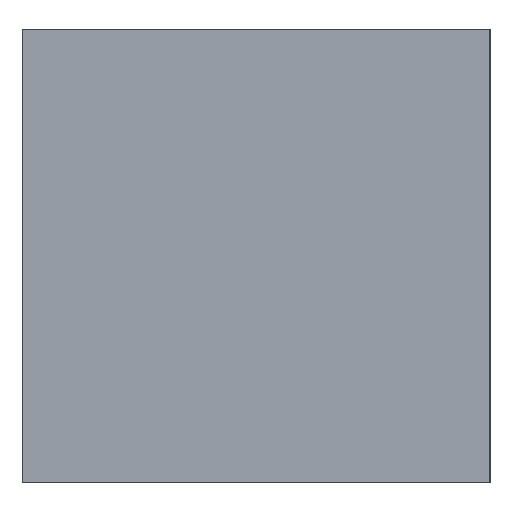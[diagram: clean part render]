
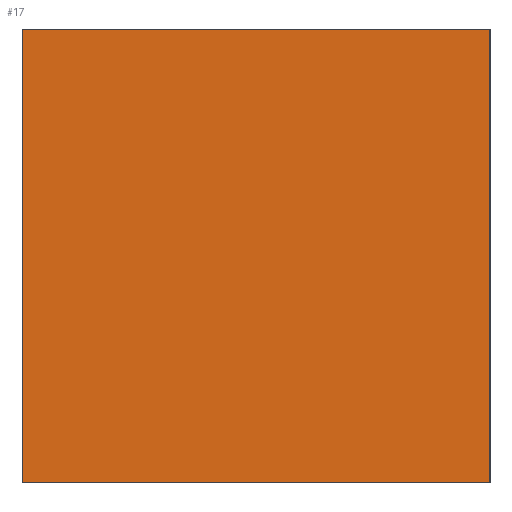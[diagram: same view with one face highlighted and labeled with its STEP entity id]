
A CAD part, left-side view. The second image highlights one B-rep face of the part: STEP entity #17.
In plain terms, the highlighted planar face has unit normal (-1, 0, 0).
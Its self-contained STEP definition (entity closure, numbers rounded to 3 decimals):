
#17 = ADVANCED_FACE('',(#18),#32,.F.);
#18 = FACE_BOUND('',#19,.F.);
#19 = EDGE_LOOP('',(#20,#55,#83,#111));
#20 = ORIENTED_EDGE('',*,*,#21,.F.);
#21 = EDGE_CURVE('',#22,#24,#26,.T.);
#22 = VERTEX_POINT('',#23);
#23 = CARTESIAN_POINT('',(28.53,1.45,-26.662));
#24 = VERTEX_POINT('',#25);
#25 = CARTESIAN_POINT('',(28.53,1.45,-11.338));
#26 = SURFACE_CURVE('',#27,(#31,#43),.PCURVE_S1.);
#27 = LINE('',#28,#29);
#28 = CARTESIAN_POINT('',(28.53,1.45,-26.662));
#29 = VECTOR('',#30,1.);
#30 = DIRECTION('',(0.,0.,1.));
#31 = PCURVE('',#32,#37);
#32 = PLANE('',#33);
#33 = AXIS2_PLACEMENT_3D('',#34,#35,#36);
#34 = CARTESIAN_POINT('',(28.53,1.45,-26.662));
#35 = DIRECTION('',(1.,0.,-0.));
#36 = DIRECTION('',(0.,0.,1.));
#37 = DEFINITIONAL_REPRESENTATION('',(#38),#42);
#38 = LINE('',#39,#40);
#39 = CARTESIAN_POINT('',(0.,0.));
#40 = VECTOR('',#41,1.);
#41 = DIRECTION('',(1.,0.));
#42 = ( GEOMETRIC_REPRESENTATION_CONTEXT(2) 
PARAMETRIC_REPRESENTATION_CONTEXT() REPRESENTATION_CONTEXT('2D SPACE',''
  ) );
#43 = PCURVE('',#44,#49);
#44 = PLANE('',#45);
#45 = AXIS2_PLACEMENT_3D('',#46,#47,#48);
#46 = CARTESIAN_POINT('',(28.53,1.45,-26.662));
#47 = DIRECTION('',(-0.,1.,0.));
#48 = DIRECTION('',(0.,0.,1.));
#49 = DEFINITIONAL_REPRESENTATION('',(#50),#54);
#50 = LINE('',#51,#52);
#51 = CARTESIAN_POINT('',(0.,0.));
#52 = VECTOR('',#53,1.);
#53 = DIRECTION('',(1.,0.));
#54 = ( GEOMETRIC_REPRESENTATION_CONTEXT(2) 
PARAMETRIC_REPRESENTATION_CONTEXT() REPRESENTATION_CONTEXT('2D SPACE',''
  ) );
#55 = ORIENTED_EDGE('',*,*,#56,.T.);
#56 = EDGE_CURVE('',#22,#57,#59,.T.);
#57 = VERTEX_POINT('',#58);
#58 = CARTESIAN_POINT('',(28.53,17.27,-26.662));
#59 = SURFACE_CURVE('',#60,(#64,#71),.PCURVE_S1.);
#60 = LINE('',#61,#62);
#61 = CARTESIAN_POINT('',(28.53,1.45,-26.662));
#62 = VECTOR('',#63,1.);
#63 = DIRECTION('',(-0.,1.,0.));
#64 = PCURVE('',#32,#65);
#65 = DEFINITIONAL_REPRESENTATION('',(#66),#70);
#66 = LINE('',#67,#68);
#67 = CARTESIAN_POINT('',(0.,0.));
#68 = VECTOR('',#69,1.);
#69 = DIRECTION('',(0.,-1.));
#70 = ( GEOMETRIC_REPRESENTATION_CONTEXT(2) 
PARAMETRIC_REPRESENTATION_CONTEXT() REPRESENTATION_CONTEXT('2D SPACE',''
  ) );
#71 = PCURVE('',#72,#77);
#72 = PLANE('',#73);
#73 = AXIS2_PLACEMENT_3D('',#74,#75,#76);
#74 = CARTESIAN_POINT('',(28.53,1.45,-26.662));
#75 = DIRECTION('',(0.,0.,1.));
#76 = DIRECTION('',(1.,0.,-0.));
#77 = DEFINITIONAL_REPRESENTATION('',(#78),#82);
#78 = LINE('',#79,#80);
#79 = CARTESIAN_POINT('',(0.,0.));
#80 = VECTOR('',#81,1.);
#81 = DIRECTION('',(0.,1.));
#82 = ( GEOMETRIC_REPRESENTATION_CONTEXT(2) 
PARAMETRIC_REPRESENTATION_CONTEXT() REPRESENTATION_CONTEXT('2D SPACE',''
  ) );
#83 = ORIENTED_EDGE('',*,*,#84,.T.);
#84 = EDGE_CURVE('',#57,#85,#87,.T.);
#85 = VERTEX_POINT('',#86);
#86 = CARTESIAN_POINT('',(28.53,17.27,-11.338));
#87 = SURFACE_CURVE('',#88,(#92,#99),.PCURVE_S1.);
#88 = LINE('',#89,#90);
#89 = CARTESIAN_POINT('',(28.53,17.27,-26.662));
#90 = VECTOR('',#91,1.);
#91 = DIRECTION('',(0.,0.,1.));
#92 = PCURVE('',#32,#93);
#93 = DEFINITIONAL_REPRESENTATION('',(#94),#98);
#94 = LINE('',#95,#96);
#95 = CARTESIAN_POINT('',(0.,-15.82));
#96 = VECTOR('',#97,1.);
#97 = DIRECTION('',(1.,0.));
#98 = ( GEOMETRIC_REPRESENTATION_CONTEXT(2) 
PARAMETRIC_REPRESENTATION_CONTEXT() REPRESENTATION_CONTEXT('2D SPACE',''
  ) );
#99 = PCURVE('',#100,#105);
#100 = PLANE('',#101);
#101 = AXIS2_PLACEMENT_3D('',#102,#103,#104);
#102 = CARTESIAN_POINT('',(28.53,17.27,-26.662));
#103 = DIRECTION('',(-0.,1.,0.));
#104 = DIRECTION('',(0.,0.,1.));
#105 = DEFINITIONAL_REPRESENTATION('',(#106),#110);
#106 = LINE('',#107,#108);
#107 = CARTESIAN_POINT('',(0.,0.));
#108 = VECTOR('',#109,1.);
#109 = DIRECTION('',(1.,0.));
#110 = ( GEOMETRIC_REPRESENTATION_CONTEXT(2) 
PARAMETRIC_REPRESENTATION_CONTEXT() REPRESENTATION_CONTEXT('2D SPACE',''
  ) );
#111 = ORIENTED_EDGE('',*,*,#112,.F.);
#112 = EDGE_CURVE('',#24,#85,#113,.T.);
#113 = SURFACE_CURVE('',#114,(#118,#125),.PCURVE_S1.);
#114 = LINE('',#115,#116);
#115 = CARTESIAN_POINT('',(28.53,1.45,-11.338));
#116 = VECTOR('',#117,1.);
#117 = DIRECTION('',(-0.,1.,0.));
#118 = PCURVE('',#32,#119);
#119 = DEFINITIONAL_REPRESENTATION('',(#120),#124);
#120 = LINE('',#121,#122);
#121 = CARTESIAN_POINT('',(15.325,0.));
#122 = VECTOR('',#123,1.);
#123 = DIRECTION('',(0.,-1.));
#124 = ( GEOMETRIC_REPRESENTATION_CONTEXT(2) 
PARAMETRIC_REPRESENTATION_CONTEXT() REPRESENTATION_CONTEXT('2D SPACE',''
  ) );
#125 = PCURVE('',#126,#131);
#126 = PLANE('',#127);
#127 = AXIS2_PLACEMENT_3D('',#128,#129,#130);
#128 = CARTESIAN_POINT('',(28.53,1.45,-11.338));
#129 = DIRECTION('',(0.,0.,1.));
#130 = DIRECTION('',(1.,0.,-0.));
#131 = DEFINITIONAL_REPRESENTATION('',(#132),#136);
#132 = LINE('',#133,#134);
#133 = CARTESIAN_POINT('',(0.,0.));
#134 = VECTOR('',#135,1.);
#135 = DIRECTION('',(0.,1.));
#136 = ( GEOMETRIC_REPRESENTATION_CONTEXT(2) 
PARAMETRIC_REPRESENTATION_CONTEXT() REPRESENTATION_CONTEXT('2D SPACE',''
  ) );
